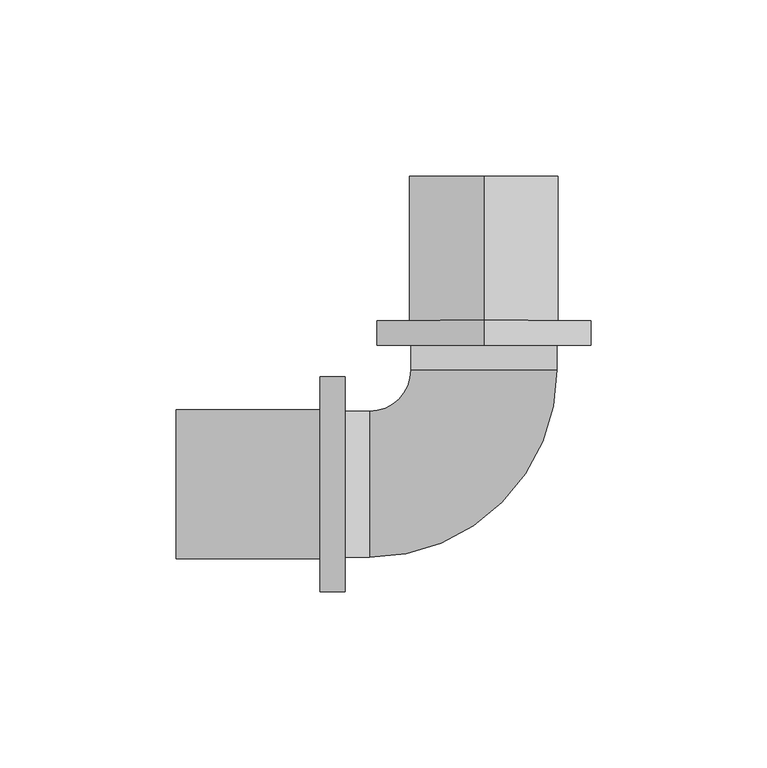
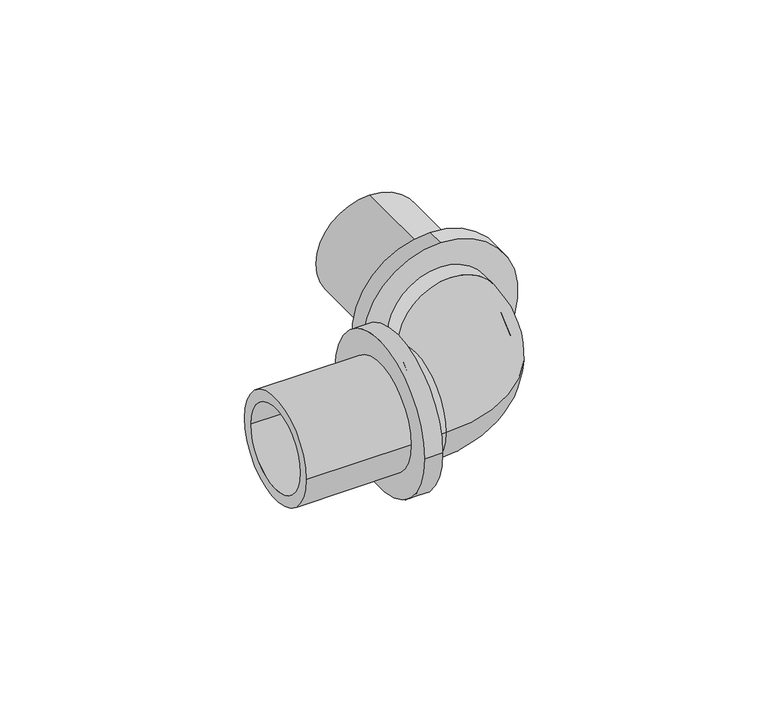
"""IFC4 building model written with IfcOpenShell, lengths in millimetres: pipe fitting geometry, RAUTITAN_Corner_RX+ stabil : RTI RX+ stabil C DE."""

from ifc_helpers import new_model, si_unit, point, frame, origin, place, context, project, spatial, polyline, circle_curve, ellipse_curve, trimmed, source, transform, mapped, element, save
from ifc_brep_helpers import plane_surface, cylinder_surface, revolved_surface, advanced_brep


def pipe_fitting_af3e73ed(model_context):
    return source(origin(), model_context, "Body", "AdvancedBrep", [
        advanced_brep(
        [(-39.5, 20.75, 0.0), (-39.5, -20.75, 0.0), (-39.5, 16.75, 0.0), (-39.5, -16.75, 0.0), (-32.55, -16.75, 0.0), (-32.55, 16.75, 0.0), (-32.55, -20.75, 0.0), (-32.55, 20.75, 0.0), (20.75, 39.5, 0.0), (-20.75, 39.5, 0.0), (16.75, 39.5, 0.0), (-16.75, 39.5, 0.0), (-16.75, 32.55, 0.0), (16.75, 32.55, 0.0), (-20.75, 32.55, 0.0), (20.75, 32.55, 0.0)],
        [
            (0, 1, circle_curve(frame((-39.5, 0.0, 0.0), z_axis=(-1.0, 0.0, 0.0), x_axis=(0.0, -1.0, 0.0)), 20.75)),
            (1, 0, circle_curve(frame((-39.5, 0.0, 0.0), z_axis=(-1.0, 0.0, 0.0), x_axis=(0.0, -1.0, 0.0)), 20.75)),
            (2, 3, circle_curve(frame((-39.5, 0.0, 0.0), z_axis=(1.0, 0.0, 0.0), x_axis=(0.0, -1.0, 0.0)), 16.75)),
            (3, 2, circle_curve(frame((-39.5, 0.0, 0.0), z_axis=(1.0, 0.0, 0.0), x_axis=(0.0, -1.0, 0.0)), 16.75)),
            (3, 4),
            (4, 5, circle_curve(frame((-32.55, 0.0, 0.0), z_axis=(1.0, 0.0, 0.0), x_axis=(0.0, -1.0, 0.0)), 16.75)),
            (5, 2),
            (5, 4, circle_curve(frame((-32.55, 0.0, 0.0), z_axis=(1.0, 0.0, 0.0), x_axis=(0.0, -1.0, 0.0)), 16.75)),
            (1, 6),
            (6, 7, circle_curve(frame((-32.55, 0.0, 0.0), z_axis=(-1.0, 0.0, 0.0), x_axis=(0.0, -1.0, 0.0)), 20.75)),
            (7, 0),
            (7, 6, circle_curve(frame((-32.55, 0.0, 0.0), z_axis=(-1.0, 0.0, 0.0), x_axis=(0.0, -1.0, 0.0)), 20.75)),
            (8, 9, circle_curve(frame((0.0, 39.5, 0.0), z_axis=(0.0, 1.0, 0.0), x_axis=(-1.0, 0.0, 0.0)), 20.75)),
            (9, 8, circle_curve(frame((0.0, 39.5, 0.0), z_axis=(0.0, 1.0, 0.0), x_axis=(-1.0, 0.0, 0.0)), 20.75)),
            (10, 11, circle_curve(frame((0.0, 39.5, 0.0), z_axis=(0.0, -1.0, 0.0), x_axis=(-1.0, 0.0, 0.0)), 16.75)),
            (11, 10, circle_curve(frame((0.0, 39.5, 0.0), z_axis=(0.0, -1.0, 0.0), x_axis=(-1.0, 0.0, 0.0)), 16.75)),
            (11, 12),
            (12, 13, circle_curve(frame((0.0, 32.55, 0.0), z_axis=(0.0, -1.0, 0.0), x_axis=(-1.0, 0.0, 0.0)), 16.75)),
            (13, 10),
            (13, 12, circle_curve(frame((0.0, 32.55, 0.0), z_axis=(0.0, -1.0, 0.0), x_axis=(-1.0, 0.0, 0.0)), 16.75)),
            (9, 14),
            (14, 15, circle_curve(frame((0.0, 32.55, 0.0), z_axis=(0.0, 1.0, 0.0), x_axis=(-1.0, 0.0, 0.0)), 20.75)),
            (15, 8),
            (15, 14, circle_curve(frame((0.0, 32.55, 0.0), z_axis=(0.0, 1.0, 0.0), x_axis=(-1.0, 0.0, 0.0)), 20.75)),
            (12, 5, circle_curve(frame((-32.55, 32.55, 0.0), z_axis=(0.0, 0.0, -1.0), x_axis=(0.0, -1.0, 0.0)), 15.8)),
            (4, 13, circle_curve(frame((-32.55, 32.55, 0.0), z_axis=(0.0, 0.0, 1.0), x_axis=(0.0, -1.0, 0.0)), 49.3)),
            (14, 7, circle_curve(frame((-32.55, 32.55, 0.0), z_axis=(0.0, 0.0, -1.0), x_axis=(0.0, -1.0, 0.0)), 11.8)),
            (6, 15, circle_curve(frame((-32.55, 32.55, 0.0), z_axis=(0.0, 0.0, 1.0), x_axis=(0.0, -1.0, 0.0)), 53.3)),
        ],
        [
            plane_surface(frame((-39.5, 0.0, 0.0), z_axis=(-1.0, 0.0, 0.0), x_axis=(0.0, 0.0, 1.0))),
            revolved_surface(polyline([(-39.5, -16.75, 0.0), (-32.55, -16.75, 0.0)]), (-32.55, 0.0, 0.0), (-1.0, 0.0, 0.0)),
            cylinder_surface(frame((-32.55, 0.0, 0.0), z_axis=(1.0, 0.0, 0.0), x_axis=(0.0, -1.0, 0.0)), 20.75),
            plane_surface(frame((0.0, 39.5, 0.0), z_axis=(0.0, 1.0, 0.0), x_axis=(0.0, 0.0, 1.0))),
            revolved_surface(polyline([(-16.75, 39.5, 0.0), (-16.75, 32.55, 0.0)]), (0.0, 32.55, 0.0), (0.0, 1.0, 0.0)),
            cylinder_surface(frame((0.0, 32.55, 0.0), z_axis=(0.0, -1.0, 0.0), x_axis=(-1.0, 0.0, 0.0)), 20.75),
            revolved_surface(trimmed(ellipse_curve(frame((-32.55, 0.0, 0.0), z_axis=(1.0, 0.0, 0.0), x_axis=(0.0, 1.0, 0.0)), 16.75, 16.75), [point((-32.55, -16.75, 0.0))], [point((-32.55, 16.75, 0.0))], True, "CARTESIAN"), (-32.55, 32.55, 0.0), (0.0, 0.0, 1.0)),
            revolved_surface(trimmed(ellipse_curve(frame((-32.55, 0.0, 0.0), z_axis=(1.0, 0.0, 0.0), x_axis=(0.0, 1.0, 0.0)), 16.75, 16.75), [point((-32.55, 16.75, 0.0))], [point((-32.55, -16.75, 0.0))], True, "CARTESIAN"), (-32.55, 32.55, 0.0), (0.0, 0.0, 1.0)),
            revolved_surface(trimmed(ellipse_curve(frame((-32.55, 0.0, 0.0), z_axis=(-1.0, 0.0, 0.0), x_axis=(0.0, 1.0, 0.0)), 20.75, 20.75), [point((-32.55, -20.75, 0.0))], [point((-32.55, 20.75, 0.0))], True, "CARTESIAN"), (-32.55, 32.55, 0.0), (0.0, 0.0, 1.0)),
            revolved_surface(trimmed(ellipse_curve(frame((-32.55, 0.0, 0.0), z_axis=(-1.0, 0.0, 0.0), x_axis=(0.0, 1.0, 0.0)), 20.75, 20.75), [point((-32.55, 20.75, 0.0))], [point((-32.55, -20.75, 0.0))], True, "CARTESIAN"), (-32.55, 32.55, 0.0), (0.0, 0.0, 1.0)),
        ],
        [
            (0, [[1, 2], [3, 4]]),
            (1, [[-4, 5, 6, 7]]),
            (1, [[-3, -7, 8, -5]]),
            (2, [[-2, 9, 10, 11]]),
            (2, [[-1, -11, 12, -9]]),
            (3, [[13, 14], [15, 16]]),
            (4, [[-16, 17, 18, 19]]),
            (4, [[-15, -19, 20, -17]]),
            (5, [[-14, 21, 22, 23]]),
            (5, [[-13, -23, 24, -21]]),
            (6, [[25, -6, 26, -18]]),
            (7, [[-25, -20, -26, -8]]),
            (8, [[27, -10, 28, -22]]),
            (9, [[-27, -24, -28, -12]]),
        ],
    ),
        advanced_brep(
        [(-46.5, -30.55, 0.0), (-46.5, 30.55, 0.0), (-39.5, 30.55, 0.0), (-39.5, -30.55, 0.0), (-87.5, -21.15, 0.0), (-87.5, 21.15, 0.0), (-46.5, 21.15, 0.0), (-46.5, -21.15, 0.0), (-39.5, -16.75, 0.0), (-39.5, 16.75, 0.0), (-87.5, 16.75, 0.0), (-87.5, -16.75, 0.0)],
        [
            (0, 1, circle_curve(frame((-46.5, 0.0, 0.0), z_axis=(1.0, 0.0, 0.0), x_axis=(0.0, 1.0, 0.0)), 30.55)),
            (1, 2),
            (2, 3, circle_curve(frame((-39.5, 0.0, 0.0), z_axis=(-1.0, 0.0, 0.0), x_axis=(0.0, 1.0, 0.0)), 30.55)),
            (3, 0),
            (4, 5, circle_curve(frame((-87.5, 0.0, 0.0), z_axis=(1.0, 0.0, 0.0), x_axis=(0.0, 1.0, 0.0)), 21.15)),
            (5, 6),
            (6, 7, circle_curve(frame((-46.5, 0.0, 0.0), z_axis=(-1.0, 0.0, 0.0), x_axis=(0.0, 1.0, 0.0)), 21.15)),
            (7, 4),
            (8, 9, circle_curve(frame((-39.5, 0.0, 0.0), z_axis=(1.0, 0.0, 0.0), x_axis=(0.0, 1.0, 0.0)), 16.75)),
            (9, 10),
            (10, 11, circle_curve(frame((-87.5, 0.0, 0.0), z_axis=(-1.0, 0.0, 0.0), x_axis=(0.0, 1.0, 0.0)), 16.75)),
            (11, 8),
            (1, 0, circle_curve(frame((-46.5, 0.0, 0.0), z_axis=(1.0, 0.0, 0.0), x_axis=(0.0, -1.0, 0.0)), 30.55)),
            (3, 2, circle_curve(frame((-39.5, 0.0, 0.0), z_axis=(-1.0, 0.0, 0.0), x_axis=(0.0, -1.0, 0.0)), 30.55)),
            (6, 7, circle_curve(frame((-46.5, 0.0, 0.0), z_axis=(1.0, 0.0, 0.0), x_axis=(0.0, -1.0, 0.0)), 21.15)),
            (5, 4, circle_curve(frame((-87.5, 0.0, 0.0), z_axis=(1.0, 0.0, 0.0), x_axis=(0.0, -1.0, 0.0)), 21.15)),
            (10, 11, circle_curve(frame((-87.5, 0.0, 0.0), z_axis=(1.0, 0.0, 0.0), x_axis=(0.0, -1.0, 0.0)), 16.75)),
            (9, 8, circle_curve(frame((-39.5, 0.0, 0.0), z_axis=(1.0, 0.0, 0.0), x_axis=(0.0, -1.0, 0.0)), 16.75)),
        ],
        [
            cylinder_surface(frame((-39.5, 0.0, 0.0), z_axis=(-1.0, 0.0, 0.0), x_axis=(0.0, 1.0, 0.0)), 30.55),
            cylinder_surface(frame((-39.5, 0.0, 0.0), z_axis=(-1.0, 0.0, 0.0), x_axis=(0.0, 1.0, 0.0)), 21.15),
            revolved_surface(polyline([(-87.5, 16.75, 0.0), (-39.5, 16.75, 0.0)]), (-39.5, 0.0, 0.0), (-1.0, 0.0, 0.0)),
            cylinder_surface(frame((-39.5, 0.0, 0.0), z_axis=(-1.0, 0.0, 0.0), x_axis=(0.0, -1.0, 0.0)), 30.55),
            plane_surface(frame((-46.5, 0.0, 0.0), z_axis=(-1.0, 0.0, 0.0), x_axis=(0.0, -1.0, 0.0))),
            cylinder_surface(frame((-39.5, 0.0, 0.0), z_axis=(-1.0, 0.0, 0.0), x_axis=(0.0, -1.0, 0.0)), 21.15),
            plane_surface(frame((-87.5, 0.0, 0.0), z_axis=(-1.0, 0.0, 0.0), x_axis=(0.0, -1.0, 0.0))),
            revolved_surface(polyline([(-87.5, -16.75, 0.0), (-39.5, -16.75, 0.0)]), (-39.5, 0.0, 0.0), (-1.0, 0.0, 0.0)),
            plane_surface(frame((-39.5, 0.0, 0.0), z_axis=(1.0, 0.0, 0.0), x_axis=(0.0, -1.0, 0.0))),
        ],
        [
            (0, [[1, 2, 3, 4]]),
            (1, [[5, 6, 7, 8]]),
            (2, [[9, 10, 11, 12]]),
            (3, [[13, -4, 14, -2]]),
            (4, [[-13, -1], [15, -7]]),
            (5, [[16, -8, -15, -6]]),
            (6, [[-16, -5], [17, -11]]),
            (7, [[18, -12, -17, -10]]),
            (8, [[-14, -3], [-18, -9]]),
        ],
    ),
        advanced_brep(
        [(0.0, 46.5, 30.9749044), (0.0, 46.5, -30.1250956), (0.0, 39.5, -30.1250956), (0.0, 39.5, 30.9749044), (0.0, 87.5, 21.5749044), (0.0, 87.5, -20.7250956), (0.0, 46.5, -20.7250956), (0.0, 46.5, 21.5749044), (0.0, 39.5, 17.1749044), (0.0, 39.5, -16.3250956), (0.0, 87.5, -16.3250956), (0.0, 87.5, 17.1749044)],
        [
            (0, 1, circle_curve(frame((0.0, 46.5, 0.4249044), z_axis=(0.0, -1.0, 0.0), x_axis=(0.0, 0.0, -1.0)), 30.55)),
            (1, 2),
            (2, 3, circle_curve(frame((0.0, 39.5, 0.4249044), z_axis=(0.0, 1.0, 0.0), x_axis=(0.0, 0.0, -1.0)), 30.55)),
            (3, 0),
            (4, 5, circle_curve(frame((0.0, 87.5, 0.4249044), z_axis=(0.0, -1.0, 0.0), x_axis=(0.0, 0.0, -1.0)), 21.15)),
            (5, 6),
            (6, 7, circle_curve(frame((0.0, 46.5, 0.4249044), z_axis=(0.0, 1.0, 0.0), x_axis=(0.0, 0.0, -1.0)), 21.15)),
            (7, 4),
            (8, 9, circle_curve(frame((0.0, 39.5, 0.4249044), z_axis=(0.0, -1.0, 0.0), x_axis=(0.0, 0.0, -1.0)), 16.75)),
            (9, 10),
            (10, 11, circle_curve(frame((0.0, 87.5, 0.4249044), z_axis=(0.0, 1.0, 0.0), x_axis=(0.0, 0.0, -1.0)), 16.75)),
            (11, 8),
            (1, 0, circle_curve(frame((0.0, 46.5, 0.4249044), z_axis=(0.0, -1.0, 0.0), x_axis=(0.0, 0.0, 1.0)), 30.55)),
            (3, 2, circle_curve(frame((0.0, 39.5, 0.4249044), z_axis=(0.0, 1.0, 0.0), x_axis=(0.0, 0.0, 1.0)), 30.55)),
            (6, 7, circle_curve(frame((0.0, 46.5, 0.4249044), z_axis=(0.0, -1.0, 0.0), x_axis=(0.0, 0.0, 1.0)), 21.15)),
            (5, 4, circle_curve(frame((0.0, 87.5, 0.4249044), z_axis=(0.0, -1.0, 0.0), x_axis=(0.0, 0.0, 1.0)), 21.15)),
            (10, 11, circle_curve(frame((0.0, 87.5, 0.4249044), z_axis=(0.0, -1.0, 0.0), x_axis=(0.0, 0.0, 1.0)), 16.75)),
            (9, 8, circle_curve(frame((0.0, 39.5, 0.4249044), z_axis=(0.0, -1.0, 0.0), x_axis=(0.0, 0.0, 1.0)), 16.75)),
        ],
        [
            cylinder_surface(frame((0.0, 39.5, 0.4249044), z_axis=(0.0, 1.0, 0.0), x_axis=(0.0, 0.0, -1.0)), 30.55),
            cylinder_surface(frame((0.0, 39.5, 0.4249044), z_axis=(0.0, 1.0, 0.0), x_axis=(0.0, 0.0, -1.0)), 21.15),
            revolved_surface(polyline([(0.0, 87.5, -16.3250956), (0.0, 39.5, -16.3250956)]), (0.0, 39.5, 0.4249044), (0.0, 1.0, 0.0)),
            cylinder_surface(frame((0.0, 39.5, 0.4249044), z_axis=(0.0, 1.0, 0.0), x_axis=(0.0, 0.0, 1.0)), 30.55),
            plane_surface(frame((0.0, 46.5, 0.4249044), z_axis=(0.0, 1.0, 0.0), x_axis=(0.0, 0.0, 1.0))),
            cylinder_surface(frame((0.0, 39.5, 0.4249044), z_axis=(0.0, 1.0, 0.0), x_axis=(0.0, 0.0, 1.0)), 21.15),
            plane_surface(frame((0.0, 87.5, 0.4249044), z_axis=(0.0, 1.0, 0.0), x_axis=(0.0, 0.0, 1.0))),
            revolved_surface(polyline([(0.0, 87.5, 17.1749044), (0.0, 39.5, 17.1749044)]), (0.0, 39.5, 0.4249044), (0.0, 1.0, 0.0)),
            plane_surface(frame((0.0, 39.5, 0.4249044), z_axis=(0.0, -1.0, 0.0), x_axis=(0.0, 0.0, 1.0))),
        ],
        [
            (0, [[1, 2, 3, 4]]),
            (1, [[5, 6, 7, 8]]),
            (2, [[9, 10, 11, 12]]),
            (3, [[13, -4, 14, -2]]),
            (4, [[-13, -1], [15, -7]]),
            (5, [[16, -8, -15, -6]]),
            (6, [[-16, -5], [17, -11]]),
            (7, [[18, -12, -17, -10]]),
            (8, [[-14, -3], [-18, -9]]),
        ],
    ),
    ])


if __name__ == "__main__":
    model = new_model("IFC4")
    model_context = context("Model", 3, world=origin())
    ifc_project = project(units=[si_unit("LENGTHUNIT", "METRE", prefix="MILLI")], contexts=[model_context])
    site = spatial("IfcSite", under=ifc_project)
    building = spatial("IfcBuilding", under=site)
    placement = place(None, origin())
    pipe_fitting_shape = pipe_fitting_af3e73ed(model_context)
    element("IfcPipeFitting", 1, ObjectType="RAUTITAN_Corner_RX+ stabil : RTI RX+ stabil C DE", at=placement, inside=building, context=model_context, shape_type="MappedRepresentation", body=[
        mapped(pipe_fitting_shape, transform((0.0, 0.0, 0.0), x_axis=(1.0, 0.0, 0.0), y_axis=(0.0, 1.0, 0.0), z_axis=(0.0, 0.0, 1.0))),
    ])
    save(model, "model.ifc")
